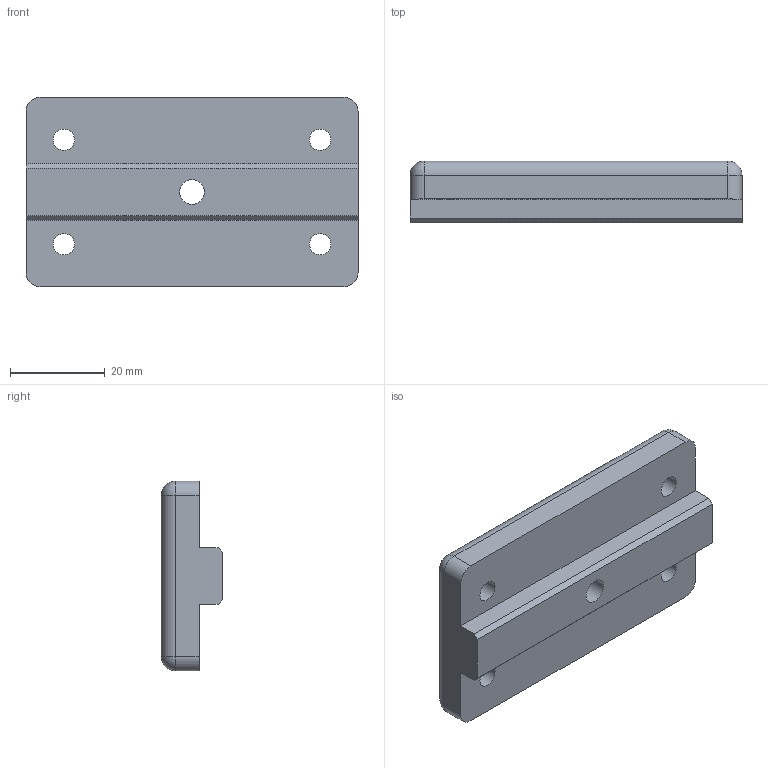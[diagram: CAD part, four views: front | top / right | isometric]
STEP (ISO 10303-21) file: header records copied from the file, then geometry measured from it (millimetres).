
FILE_DESCRIPTION(/* description */ (''),/* implementation_level */ '2;1');
FILE_NAME(/* name */ '',/* time_stamp */ '2025-02-26T16:16:51+09:00',/* author */ ('jhkim'),/* organization */ (''),/* preprocessor_version */ 'ST-DEVELOPER v20',/* originating_system */ 'Autodesk Inventor 2025',/* authorisation */ '');
FILE_SCHEMA (('AUTOMOTIVE_DESIGN { 1 0 10303 214 3 1 1 }'));
Length unit declared in the file: millimetre
Products named in the file (1): 윗커버
Bounding box: 70 x 13 x 40 mm (x, y, z)
Volume: 24615.4 mm3; surface area: 8462.1 mm2
Topology: 1 solids, 1 shells, 39 faces, 84 edges, 52 vertices
Faces by surface type: cylinder 18, plane 17, sphere 4
Full cylindrical faces by diameter (mm): 4.5 x4, 5.188 x1, 8 x4, 10 x1
Entity records: 1121 total; most frequent: DIRECTION 200, CARTESIAN_POINT 176, ORIENTED_EDGE 168, EDGE_CURVE 84, AXIS2_PLACEMENT_3D 76, EDGE_LOOP 54, VERTEX_POINT 52, LINE 48
